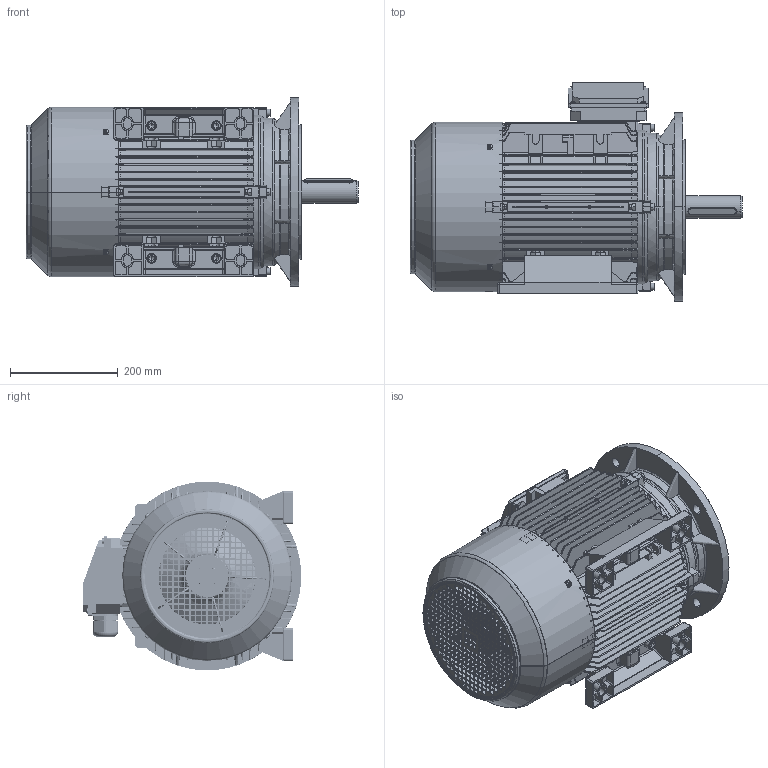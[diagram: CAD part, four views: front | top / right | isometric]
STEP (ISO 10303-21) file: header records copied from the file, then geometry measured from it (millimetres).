
FILE_DESCRIPTION (( 'STEP AP214' ), '1' );
FILE_NAME ('BMT4400.16E835.11.step', '2020-04-24T00:18:52', ( '' ), ( '' ), 'SwSTEP 2.0', 'SolidWorks 2019', '' );
FILE_SCHEMA (( 'AUTOMOTIVE_DESIGN' ));
Length unit declared in the file: millimetre
Products named in the file (1): BMT4400.16E835.11
Bounding box: 616 x 406 x 350 mm (x, y, z)
Volume: 6609973.6 mm3; surface area: 2849056.5 mm2
Topology: 45 solids, 45 shells, 6367 faces, 17187 edges, 10813 vertices
Faces by surface type: plane 3348, cylinder 1507, bspline 822, cone 405, torus 207, sphere 78
Entity records: 242837 total; most frequent: CARTESIAN_POINT 89621, ORIENTED_EDGE 33912, DIRECTION 28676, EDGE_CURVE 16956, VERTEX_POINT 10812, VECTOR 10026, LINE 10026, AXIS2_PLACEMENT_3D 9325
